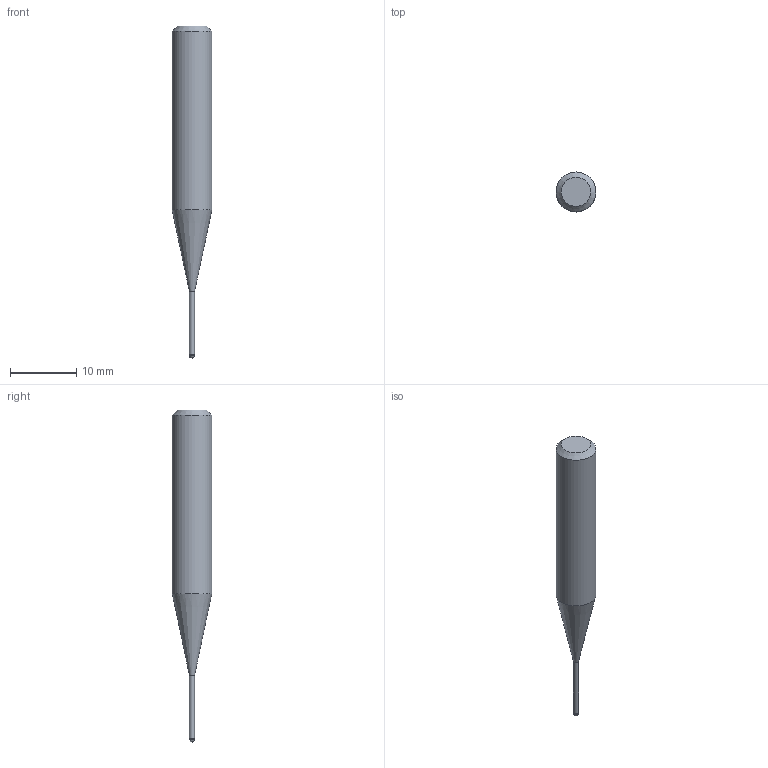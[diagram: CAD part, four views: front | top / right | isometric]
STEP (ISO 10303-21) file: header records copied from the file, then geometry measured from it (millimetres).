
FILE_DESCRIPTION((''),'2;1');
FILE_NAME('C:\Users\nsx150\AppData\Local\Temp\Mastercam 2021\3SYKECWX22\TEMP.step','2021-04-22T10:01:49',(''),(''),'STEP Write','Mastercam 2021 ... CNC Software, Inc.','');
FILE_SCHEMA(('AUTOMOTIVE_DESIGN'));
Length unit declared in the file: millimetre
Products named in the file (1): None
Bounding box: 6 x 6 x 50 mm (x, y, z)
Volume: 914.2 mm3; surface area: 699 mm2
Topology: 2 solids, 2 shells, 9 faces, 14 edges, 8 vertices
Faces by surface type: plane 3, cylinder 3, cone 2, sphere 1
Full cylindrical faces by diameter (mm): 0.76 x1, 0.8 x1, 6 x1
Entity records: 211 total; most frequent: DIRECTION 36, CARTESIAN_POINT 25, AXIS2_PLACEMENT_3D 18, ORIENTED_EDGE 14, EDGE_LOOP 14, STYLED_ITEM 12, ADVANCED_FACE 9, FACE_BOUND 8
